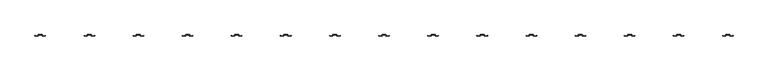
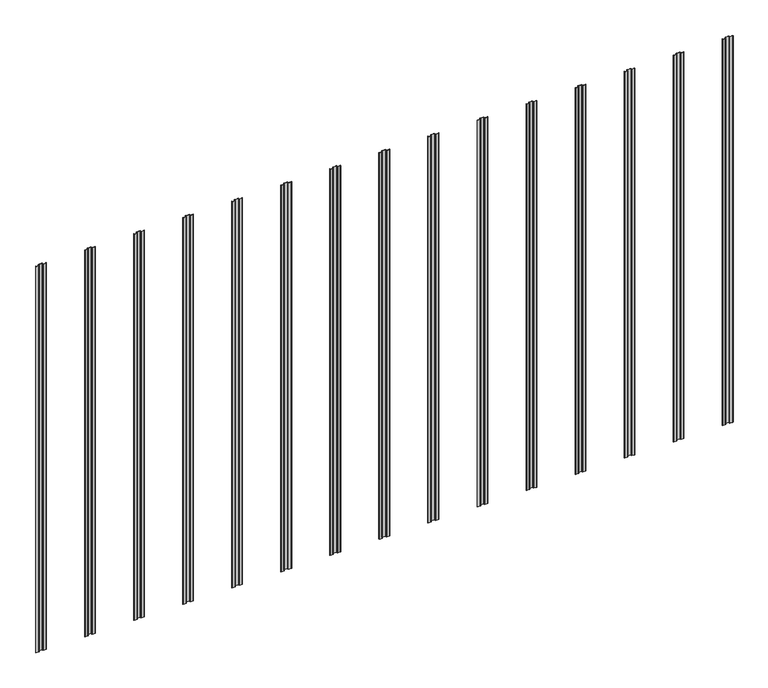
"""IFC4 building model written with IfcOpenShell, lengths in millimetres: fastener geometry, Knight-Wall-Systems_HCI-Girt : Knight-Wall-Systems_HCI-Girt."""

from ifc_helpers import new_model, si_unit, point, frame_2d, origin, origin_with_axes, place, context, project, spatial, polyline, circle_curve, trimmed, segment, composite_curve, outline, extrude, source, transform, mapped, element, save


def fastener_49d822d4(model_context):
    return source(origin(), model_context, "Body", "SweptSolid", [
        extrude(outline(composite_curve([segment(trimmed(circle_curve(frame_2d((8217.281, 3.048)), 1.524), [point((8217.281, 1.524))], [point((8218.805, 3.048))], True, "CARTESIAN"), True, "CONTINUOUS"), segment(polyline([(8218.805, 3.048), (8218.805, 16.002)]), True, "CONTINUOUS"), segment(trimmed(circle_curve(frame_2d((8221.853, 16.002)), 3.048), [point((8218.805, 16.002))], [point((8221.853, 19.05))], False, "CARTESIAN"), True, "CONTINUOUS"), segment(polyline([(8221.853, 19.05), (8266.557, 19.05)]), True, "CONTINUOUS"), segment(trimmed(circle_curve(frame_2d((8266.557, 16.002)), 3.048), [point((8266.557, 19.05))], [point((8269.605, 16.002))], False, "CARTESIAN"), True, "CONTINUOUS"), segment(polyline([(8269.605, 16.002), (8269.605, 3.048)]), True, "CONTINUOUS"), segment(trimmed(circle_curve(frame_2d((8271.129, 3.048)), 1.524), [point((8269.605, 3.048))], [point((8271.129, 1.524))], True, "CARTESIAN"), True, "CONTINUOUS"), segment(polyline([(8271.129, 1.524), (8307.07, 1.524)]), True, "CONTINUOUS"), segment(trimmed(circle_curve(frame_2d((8307.07, 2.54)), 1.016), [point((8307.07, 1.524))], [point((8308.086, 2.54))], True, "CARTESIAN"), True, "CONTINUOUS"), segment(polyline([(8308.086, 2.54), (8308.086, 5.588), (8309.61, 5.588), (8309.61, 2.54)]), True, "CONTINUOUS"), segment(trimmed(circle_curve(frame_2d((8307.07, 2.54)), 2.54), [point((8309.61, 2.54))], [point((8307.07, 0.0))], False, "CARTESIAN"), True, "CONTINUOUS"), segment(polyline([(8307.07, 0.0), (8271.129, 0.0)]), True, "CONTINUOUS"), segment(trimmed(circle_curve(frame_2d((8271.129, 3.048)), 3.048), [point((8271.129, 0.0))], [point((8268.081, 3.048))], False, "CARTESIAN"), True, "CONTINUOUS"), segment(polyline([(8268.081, 3.048), (8268.081, 16.002)]), True, "CONTINUOUS"), segment(trimmed(circle_curve(frame_2d((8266.557, 16.002)), 1.524), [point((8268.081, 16.002))], [point((8266.557, 17.526))], True, "CARTESIAN"), True, "CONTINUOUS"), segment(polyline([(8266.557, 17.526), (8221.853, 17.526)]), True, "CONTINUOUS"), segment(trimmed(circle_curve(frame_2d((8221.853, 16.002)), 1.524), [point((8221.853, 17.526))], [point((8220.329, 16.002))], True, "CARTESIAN"), True, "CONTINUOUS"), segment(polyline([(8220.329, 16.002), (8220.329, 3.048)]), True, "CONTINUOUS"), segment(trimmed(circle_curve(frame_2d((8217.281, 3.048)), 3.048), [point((8220.329, 3.048))], [point((8217.281, 0.0))], False, "CARTESIAN"), True, "CONTINUOUS"), segment(polyline([(8217.281, 0.0), (8181.34, 0.0)]), True, "CONTINUOUS"), segment(trimmed(circle_curve(frame_2d((8181.34, 2.54)), 2.54), [point((8181.34, 0.0))], [point((8178.8, 2.54))], False, "CARTESIAN"), True, "CONTINUOUS"), segment(polyline([(8178.8, 2.54), (8178.8, 5.588), (8180.324, 5.588), (8180.324, 2.54)]), True, "CONTINUOUS"), segment(trimmed(circle_curve(frame_2d((8181.34, 2.54)), 1.016), [point((8180.324, 2.54))], [point((8181.34, 1.524))], True, "CARTESIAN"), True, "CONTINUOUS"), segment(polyline([(8181.34, 1.524), (8217.281, 1.524)]), True, "CONTINUOUS")], self_intersect=False)), origin_with_axes(), (0.0, 0.0, 1.0), 5080.0),
        extrude(outline(composite_curve([segment(trimmed(circle_curve(frame_2d((7607.681, 3.048)), 1.524), [point((7607.681, 1.524))], [point((7609.205, 3.048))], True, "CARTESIAN"), True, "CONTINUOUS"), segment(polyline([(7609.205, 3.048), (7609.205, 16.002)]), True, "CONTINUOUS"), segment(trimmed(circle_curve(frame_2d((7612.253, 16.002)), 3.048), [point((7609.205, 16.002))], [point((7612.253, 19.05))], False, "CARTESIAN"), True, "CONTINUOUS"), segment(polyline([(7612.253, 19.05), (7656.957, 19.05)]), True, "CONTINUOUS"), segment(trimmed(circle_curve(frame_2d((7656.957, 16.002)), 3.048), [point((7656.957, 19.05))], [point((7660.005, 16.002))], False, "CARTESIAN"), True, "CONTINUOUS"), segment(polyline([(7660.005, 16.002), (7660.005, 3.048)]), True, "CONTINUOUS"), segment(trimmed(circle_curve(frame_2d((7661.529, 3.048)), 1.524), [point((7660.005, 3.048))], [point((7661.529, 1.524))], True, "CARTESIAN"), True, "CONTINUOUS"), segment(polyline([(7661.529, 1.524), (7697.47, 1.524)]), True, "CONTINUOUS"), segment(trimmed(circle_curve(frame_2d((7697.47, 2.54)), 1.016), [point((7697.47, 1.524))], [point((7698.486, 2.54))], True, "CARTESIAN"), True, "CONTINUOUS"), segment(polyline([(7698.486, 2.54), (7698.486, 5.588), (7700.01, 5.588), (7700.01, 2.54)]), True, "CONTINUOUS"), segment(trimmed(circle_curve(frame_2d((7697.47, 2.54)), 2.54), [point((7700.01, 2.54))], [point((7697.47, 0.0))], False, "CARTESIAN"), True, "CONTINUOUS"), segment(polyline([(7697.47, 0.0), (7661.529, 0.0)]), True, "CONTINUOUS"), segment(trimmed(circle_curve(frame_2d((7661.529, 3.048)), 3.048), [point((7661.529, 0.0))], [point((7658.481, 3.048))], False, "CARTESIAN"), True, "CONTINUOUS"), segment(polyline([(7658.481, 3.048), (7658.481, 16.002)]), True, "CONTINUOUS"), segment(trimmed(circle_curve(frame_2d((7656.957, 16.002)), 1.524), [point((7658.481, 16.002))], [point((7656.957, 17.526))], True, "CARTESIAN"), True, "CONTINUOUS"), segment(polyline([(7656.957, 17.526), (7612.253, 17.526)]), True, "CONTINUOUS"), segment(trimmed(circle_curve(frame_2d((7612.253, 16.002)), 1.524), [point((7612.253, 17.526))], [point((7610.729, 16.002))], True, "CARTESIAN"), True, "CONTINUOUS"), segment(polyline([(7610.729, 16.002), (7610.729, 3.048)]), True, "CONTINUOUS"), segment(trimmed(circle_curve(frame_2d((7607.681, 3.048)), 3.048), [point((7610.729, 3.048))], [point((7607.681, 0.0))], False, "CARTESIAN"), True, "CONTINUOUS"), segment(polyline([(7607.681, 0.0), (7571.74, 0.0)]), True, "CONTINUOUS"), segment(trimmed(circle_curve(frame_2d((7571.74, 2.54)), 2.54), [point((7571.74, 0.0))], [point((7569.2, 2.54))], False, "CARTESIAN"), True, "CONTINUOUS"), segment(polyline([(7569.2, 2.54), (7569.2, 5.588), (7570.724, 5.588), (7570.724, 2.54)]), True, "CONTINUOUS"), segment(trimmed(circle_curve(frame_2d((7571.74, 2.54)), 1.016), [point((7570.724, 2.54))], [point((7571.74, 1.524))], True, "CARTESIAN"), True, "CONTINUOUS"), segment(polyline([(7571.74, 1.524), (7607.681, 1.524)]), True, "CONTINUOUS")], self_intersect=False)), origin_with_axes(), (0.0, 0.0, 1.0), 5080.0),
        extrude(outline(composite_curve([segment(trimmed(circle_curve(frame_2d((6998.081, 3.048)), 1.524), [point((6998.081, 1.524))], [point((6999.605, 3.048))], True, "CARTESIAN"), True, "CONTINUOUS"), segment(polyline([(6999.605, 3.048), (6999.605, 16.002)]), True, "CONTINUOUS"), segment(trimmed(circle_curve(frame_2d((7002.653, 16.002)), 3.048), [point((6999.605, 16.002))], [point((7002.653, 19.05))], False, "CARTESIAN"), True, "CONTINUOUS"), segment(polyline([(7002.653, 19.05), (7047.357, 19.05)]), True, "CONTINUOUS"), segment(trimmed(circle_curve(frame_2d((7047.357, 16.002)), 3.048), [point((7047.357, 19.05))], [point((7050.405, 16.002))], False, "CARTESIAN"), True, "CONTINUOUS"), segment(polyline([(7050.405, 16.002), (7050.405, 3.048)]), True, "CONTINUOUS"), segment(trimmed(circle_curve(frame_2d((7051.929, 3.048)), 1.524), [point((7050.405, 3.048))], [point((7051.929, 1.524))], True, "CARTESIAN"), True, "CONTINUOUS"), segment(polyline([(7051.929, 1.524), (7087.87, 1.524)]), True, "CONTINUOUS"), segment(trimmed(circle_curve(frame_2d((7087.87, 2.54)), 1.016), [point((7087.87, 1.524))], [point((7088.886, 2.54))], True, "CARTESIAN"), True, "CONTINUOUS"), segment(polyline([(7088.886, 2.54), (7088.886, 5.588), (7090.41, 5.588), (7090.41, 2.54)]), True, "CONTINUOUS"), segment(trimmed(circle_curve(frame_2d((7087.87, 2.54)), 2.54), [point((7090.41, 2.54))], [point((7087.87, 0.0))], False, "CARTESIAN"), True, "CONTINUOUS"), segment(polyline([(7087.87, 0.0), (7051.929, 0.0)]), True, "CONTINUOUS"), segment(trimmed(circle_curve(frame_2d((7051.929, 3.048)), 3.048), [point((7051.929, 0.0))], [point((7048.881, 3.048))], False, "CARTESIAN"), True, "CONTINUOUS"), segment(polyline([(7048.881, 3.048), (7048.881, 16.002)]), True, "CONTINUOUS"), segment(trimmed(circle_curve(frame_2d((7047.357, 16.002)), 1.524), [point((7048.881, 16.002))], [point((7047.357, 17.526))], True, "CARTESIAN"), True, "CONTINUOUS"), segment(polyline([(7047.357, 17.526), (7002.653, 17.526)]), True, "CONTINUOUS"), segment(trimmed(circle_curve(frame_2d((7002.653, 16.002)), 1.524), [point((7002.653, 17.526))], [point((7001.129, 16.002))], True, "CARTESIAN"), True, "CONTINUOUS"), segment(polyline([(7001.129, 16.002), (7001.129, 3.048)]), True, "CONTINUOUS"), segment(trimmed(circle_curve(frame_2d((6998.081, 3.048)), 3.048), [point((7001.129, 3.048))], [point((6998.081, 0.0))], False, "CARTESIAN"), True, "CONTINUOUS"), segment(polyline([(6998.081, 0.0), (6962.14, 0.0)]), True, "CONTINUOUS"), segment(trimmed(circle_curve(frame_2d((6962.14, 2.54)), 2.54), [point((6962.14, 0.0))], [point((6959.6, 2.54))], False, "CARTESIAN"), True, "CONTINUOUS"), segment(polyline([(6959.6, 2.54), (6959.6, 5.588), (6961.124, 5.588), (6961.124, 2.54)]), True, "CONTINUOUS"), segment(trimmed(circle_curve(frame_2d((6962.14, 2.54)), 1.016), [point((6961.124, 2.54))], [point((6962.14, 1.524))], True, "CARTESIAN"), True, "CONTINUOUS"), segment(polyline([(6962.14, 1.524), (6998.081, 1.524)]), True, "CONTINUOUS")], self_intersect=False)), origin_with_axes(), (0.0, 0.0, 1.0), 5080.0),
        extrude(outline(composite_curve([segment(trimmed(circle_curve(frame_2d((6388.481, 3.048)), 1.524), [point((6388.481, 1.524))], [point((6390.005, 3.048))], True, "CARTESIAN"), True, "CONTINUOUS"), segment(polyline([(6390.005, 3.048), (6390.005, 16.002)]), True, "CONTINUOUS"), segment(trimmed(circle_curve(frame_2d((6393.053, 16.002)), 3.048), [point((6390.005, 16.002))], [point((6393.053, 19.05))], False, "CARTESIAN"), True, "CONTINUOUS"), segment(polyline([(6393.053, 19.05), (6437.757, 19.05)]), True, "CONTINUOUS"), segment(trimmed(circle_curve(frame_2d((6437.757, 16.002)), 3.048), [point((6437.757, 19.05))], [point((6440.805, 16.002))], False, "CARTESIAN"), True, "CONTINUOUS"), segment(polyline([(6440.805, 16.002), (6440.805, 3.048)]), True, "CONTINUOUS"), segment(trimmed(circle_curve(frame_2d((6442.329, 3.048)), 1.524), [point((6440.805, 3.048))], [point((6442.329, 1.524))], True, "CARTESIAN"), True, "CONTINUOUS"), segment(polyline([(6442.329, 1.524), (6478.27, 1.524)]), True, "CONTINUOUS"), segment(trimmed(circle_curve(frame_2d((6478.27, 2.54)), 1.016), [point((6478.27, 1.524))], [point((6479.286, 2.54))], True, "CARTESIAN"), True, "CONTINUOUS"), segment(polyline([(6479.286, 2.54), (6479.286, 5.588), (6480.81, 5.588), (6480.81, 2.54)]), True, "CONTINUOUS"), segment(trimmed(circle_curve(frame_2d((6478.27, 2.54)), 2.54), [point((6480.81, 2.54))], [point((6478.27, 0.0))], False, "CARTESIAN"), True, "CONTINUOUS"), segment(polyline([(6478.27, 0.0), (6442.329, 0.0)]), True, "CONTINUOUS"), segment(trimmed(circle_curve(frame_2d((6442.329, 3.048)), 3.048), [point((6442.329, 0.0))], [point((6439.281, 3.048))], False, "CARTESIAN"), True, "CONTINUOUS"), segment(polyline([(6439.281, 3.048), (6439.281, 16.002)]), True, "CONTINUOUS"), segment(trimmed(circle_curve(frame_2d((6437.757, 16.002)), 1.524), [point((6439.281, 16.002))], [point((6437.757, 17.526))], True, "CARTESIAN"), True, "CONTINUOUS"), segment(polyline([(6437.757, 17.526), (6393.053, 17.526)]), True, "CONTINUOUS"), segment(trimmed(circle_curve(frame_2d((6393.053, 16.002)), 1.524), [point((6393.053, 17.526))], [point((6391.529, 16.002))], True, "CARTESIAN"), True, "CONTINUOUS"), segment(polyline([(6391.529, 16.002), (6391.529, 3.048)]), True, "CONTINUOUS"), segment(trimmed(circle_curve(frame_2d((6388.481, 3.048)), 3.048), [point((6391.529, 3.048))], [point((6388.481, 0.0))], False, "CARTESIAN"), True, "CONTINUOUS"), segment(polyline([(6388.481, 0.0), (6352.54, 0.0)]), True, "CONTINUOUS"), segment(trimmed(circle_curve(frame_2d((6352.54, 2.54)), 2.54), [point((6352.54, 0.0))], [point((6350.0, 2.54))], False, "CARTESIAN"), True, "CONTINUOUS"), segment(polyline([(6350.0, 2.54), (6350.0, 5.588), (6351.524, 5.588), (6351.524, 2.54)]), True, "CONTINUOUS"), segment(trimmed(circle_curve(frame_2d((6352.54, 2.54)), 1.016), [point((6351.524, 2.54))], [point((6352.54, 1.524))], True, "CARTESIAN"), True, "CONTINUOUS"), segment(polyline([(6352.54, 1.524), (6388.481, 1.524)]), True, "CONTINUOUS")], self_intersect=False)), origin_with_axes(), (0.0, 0.0, 1.0), 5080.0),
        extrude(outline(composite_curve([segment(trimmed(circle_curve(frame_2d((5778.881, 3.048)), 1.524), [point((5778.881, 1.524))], [point((5780.405, 3.048))], True, "CARTESIAN"), True, "CONTINUOUS"), segment(polyline([(5780.405, 3.048), (5780.405, 16.002)]), True, "CONTINUOUS"), segment(trimmed(circle_curve(frame_2d((5783.453, 16.002)), 3.048), [point((5780.405, 16.002))], [point((5783.453, 19.05))], False, "CARTESIAN"), True, "CONTINUOUS"), segment(polyline([(5783.453, 19.05), (5828.157, 19.05)]), True, "CONTINUOUS"), segment(trimmed(circle_curve(frame_2d((5828.157, 16.002)), 3.048), [point((5828.157, 19.05))], [point((5831.205, 16.002))], False, "CARTESIAN"), True, "CONTINUOUS"), segment(polyline([(5831.205, 16.002), (5831.205, 3.048)]), True, "CONTINUOUS"), segment(trimmed(circle_curve(frame_2d((5832.729, 3.048)), 1.524), [point((5831.205, 3.048))], [point((5832.729, 1.524))], True, "CARTESIAN"), True, "CONTINUOUS"), segment(polyline([(5832.729, 1.524), (5868.67, 1.524)]), True, "CONTINUOUS"), segment(trimmed(circle_curve(frame_2d((5868.67, 2.54)), 1.016), [point((5868.67, 1.524))], [point((5869.686, 2.54))], True, "CARTESIAN"), True, "CONTINUOUS"), segment(polyline([(5869.686, 2.54), (5869.686, 5.588), (5871.21, 5.588), (5871.21, 2.54)]), True, "CONTINUOUS"), segment(trimmed(circle_curve(frame_2d((5868.67, 2.54)), 2.54), [point((5871.21, 2.54))], [point((5868.67, 0.0))], False, "CARTESIAN"), True, "CONTINUOUS"), segment(polyline([(5868.67, 0.0), (5832.729, 0.0)]), True, "CONTINUOUS"), segment(trimmed(circle_curve(frame_2d((5832.729, 3.048)), 3.048), [point((5832.729, 0.0))], [point((5829.681, 3.048))], False, "CARTESIAN"), True, "CONTINUOUS"), segment(polyline([(5829.681, 3.048), (5829.681, 16.002)]), True, "CONTINUOUS"), segment(trimmed(circle_curve(frame_2d((5828.157, 16.002)), 1.524), [point((5829.681, 16.002))], [point((5828.157, 17.526))], True, "CARTESIAN"), True, "CONTINUOUS"), segment(polyline([(5828.157, 17.526), (5783.453, 17.526)]), True, "CONTINUOUS"), segment(trimmed(circle_curve(frame_2d((5783.453, 16.002)), 1.524), [point((5783.453, 17.526))], [point((5781.929, 16.002))], True, "CARTESIAN"), True, "CONTINUOUS"), segment(polyline([(5781.929, 16.002), (5781.929, 3.048)]), True, "CONTINUOUS"), segment(trimmed(circle_curve(frame_2d((5778.881, 3.048)), 3.048), [point((5781.929, 3.048))], [point((5778.881, 0.0))], False, "CARTESIAN"), True, "CONTINUOUS"), segment(polyline([(5778.881, 0.0), (5742.94, 0.0)]), True, "CONTINUOUS"), segment(trimmed(circle_curve(frame_2d((5742.94, 2.54)), 2.54), [point((5742.94, 0.0))], [point((5740.4, 2.54))], False, "CARTESIAN"), True, "CONTINUOUS"), segment(polyline([(5740.4, 2.54), (5740.4, 5.588), (5741.924, 5.588), (5741.924, 2.54)]), True, "CONTINUOUS"), segment(trimmed(circle_curve(frame_2d((5742.94, 2.54)), 1.016), [point((5741.924, 2.54))], [point((5742.94, 1.524))], True, "CARTESIAN"), True, "CONTINUOUS"), segment(polyline([(5742.94, 1.524), (5778.881, 1.524)]), True, "CONTINUOUS")], self_intersect=False)), origin_with_axes(), (0.0, 0.0, 1.0), 5080.0),
        extrude(outline(composite_curve([segment(trimmed(circle_curve(frame_2d((5169.281, 3.048)), 1.524), [point((5169.281, 1.524))], [point((5170.805, 3.048))], True, "CARTESIAN"), True, "CONTINUOUS"), segment(polyline([(5170.805, 3.048), (5170.805, 16.002)]), True, "CONTINUOUS"), segment(trimmed(circle_curve(frame_2d((5173.853, 16.002)), 3.048), [point((5170.805, 16.002))], [point((5173.853, 19.05))], False, "CARTESIAN"), True, "CONTINUOUS"), segment(polyline([(5173.853, 19.05), (5218.557, 19.05)]), True, "CONTINUOUS"), segment(trimmed(circle_curve(frame_2d((5218.557, 16.002)), 3.048), [point((5218.557, 19.05))], [point((5221.605, 16.002))], False, "CARTESIAN"), True, "CONTINUOUS"), segment(polyline([(5221.605, 16.002), (5221.605, 3.048)]), True, "CONTINUOUS"), segment(trimmed(circle_curve(frame_2d((5223.129, 3.048)), 1.524), [point((5221.605, 3.048))], [point((5223.129, 1.524))], True, "CARTESIAN"), True, "CONTINUOUS"), segment(polyline([(5223.129, 1.524), (5259.07, 1.524)]), True, "CONTINUOUS"), segment(trimmed(circle_curve(frame_2d((5259.07, 2.54)), 1.016), [point((5259.07, 1.524))], [point((5260.086, 2.54))], True, "CARTESIAN"), True, "CONTINUOUS"), segment(polyline([(5260.086, 2.54), (5260.086, 5.588), (5261.61, 5.588), (5261.61, 2.54)]), True, "CONTINUOUS"), segment(trimmed(circle_curve(frame_2d((5259.07, 2.54)), 2.54), [point((5261.61, 2.54))], [point((5259.07, 0.0))], False, "CARTESIAN"), True, "CONTINUOUS"), segment(polyline([(5259.07, 0.0), (5223.129, 0.0)]), True, "CONTINUOUS"), segment(trimmed(circle_curve(frame_2d((5223.129, 3.048)), 3.048), [point((5223.129, 0.0))], [point((5220.081, 3.048))], False, "CARTESIAN"), True, "CONTINUOUS"), segment(polyline([(5220.081, 3.048), (5220.081, 16.002)]), True, "CONTINUOUS"), segment(trimmed(circle_curve(frame_2d((5218.557, 16.002)), 1.524), [point((5220.081, 16.002))], [point((5218.557, 17.526))], True, "CARTESIAN"), True, "CONTINUOUS"), segment(polyline([(5218.557, 17.526), (5173.853, 17.526)]), True, "CONTINUOUS"), segment(trimmed(circle_curve(frame_2d((5173.853, 16.002)), 1.524), [point((5173.853, 17.526))], [point((5172.329, 16.002))], True, "CARTESIAN"), True, "CONTINUOUS"), segment(polyline([(5172.329, 16.002), (5172.329, 3.048)]), True, "CONTINUOUS"), segment(trimmed(circle_curve(frame_2d((5169.281, 3.048)), 3.048), [point((5172.329, 3.048))], [point((5169.281, 0.0))], False, "CARTESIAN"), True, "CONTINUOUS"), segment(polyline([(5169.281, 0.0), (5133.34, 0.0)]), True, "CONTINUOUS"), segment(trimmed(circle_curve(frame_2d((5133.34, 2.54)), 2.54), [point((5133.34, 0.0))], [point((5130.8, 2.54))], False, "CARTESIAN"), True, "CONTINUOUS"), segment(polyline([(5130.8, 2.54), (5130.8, 5.588), (5132.324, 5.588), (5132.324, 2.54)]), True, "CONTINUOUS"), segment(trimmed(circle_curve(frame_2d((5133.34, 2.54)), 1.016), [point((5132.324, 2.54))], [point((5133.34, 1.524))], True, "CARTESIAN"), True, "CONTINUOUS"), segment(polyline([(5133.34, 1.524), (5169.281, 1.524)]), True, "CONTINUOUS")], self_intersect=False)), origin_with_axes(), (0.0, 0.0, 1.0), 5080.0),
        extrude(outline(composite_curve([segment(trimmed(circle_curve(frame_2d((4559.681, 3.048)), 1.524), [point((4559.681, 1.524))], [point((4561.205, 3.048))], True, "CARTESIAN"), True, "CONTINUOUS"), segment(polyline([(4561.205, 3.048), (4561.205, 16.002)]), True, "CONTINUOUS"), segment(trimmed(circle_curve(frame_2d((4564.253, 16.002)), 3.048), [point((4561.205, 16.002))], [point((4564.253, 19.05))], False, "CARTESIAN"), True, "CONTINUOUS"), segment(polyline([(4564.253, 19.05), (4608.957, 19.05)]), True, "CONTINUOUS"), segment(trimmed(circle_curve(frame_2d((4608.957, 16.002)), 3.048), [point((4608.957, 19.05))], [point((4612.005, 16.002))], False, "CARTESIAN"), True, "CONTINUOUS"), segment(polyline([(4612.005, 16.002), (4612.005, 3.048)]), True, "CONTINUOUS"), segment(trimmed(circle_curve(frame_2d((4613.529, 3.048)), 1.524), [point((4612.005, 3.048))], [point((4613.529, 1.524))], True, "CARTESIAN"), True, "CONTINUOUS"), segment(polyline([(4613.529, 1.524), (4649.47, 1.524)]), True, "CONTINUOUS"), segment(trimmed(circle_curve(frame_2d((4649.47, 2.54)), 1.016), [point((4649.47, 1.524))], [point((4650.486, 2.54))], True, "CARTESIAN"), True, "CONTINUOUS"), segment(polyline([(4650.486, 2.54), (4650.486, 5.588), (4652.01, 5.588), (4652.01, 2.54)]), True, "CONTINUOUS"), segment(trimmed(circle_curve(frame_2d((4649.47, 2.54)), 2.54), [point((4652.01, 2.54))], [point((4649.47, 0.0))], False, "CARTESIAN"), True, "CONTINUOUS"), segment(polyline([(4649.47, 0.0), (4613.529, 0.0)]), True, "CONTINUOUS"), segment(trimmed(circle_curve(frame_2d((4613.529, 3.048)), 3.048), [point((4613.529, 0.0))], [point((4610.481, 3.048))], False, "CARTESIAN"), True, "CONTINUOUS"), segment(polyline([(4610.481, 3.048), (4610.481, 16.002)]), True, "CONTINUOUS"), segment(trimmed(circle_curve(frame_2d((4608.957, 16.002)), 1.524), [point((4610.481, 16.002))], [point((4608.957, 17.526))], True, "CARTESIAN"), True, "CONTINUOUS"), segment(polyline([(4608.957, 17.526), (4564.253, 17.526)]), True, "CONTINUOUS"), segment(trimmed(circle_curve(frame_2d((4564.253, 16.002)), 1.524), [point((4564.253, 17.526))], [point((4562.729, 16.002))], True, "CARTESIAN"), True, "CONTINUOUS"), segment(polyline([(4562.729, 16.002), (4562.729, 3.048)]), True, "CONTINUOUS"), segment(trimmed(circle_curve(frame_2d((4559.681, 3.048)), 3.048), [point((4562.729, 3.048))], [point((4559.681, 0.0))], False, "CARTESIAN"), True, "CONTINUOUS"), segment(polyline([(4559.681, 0.0), (4523.74, 0.0)]), True, "CONTINUOUS"), segment(trimmed(circle_curve(frame_2d((4523.74, 2.54)), 2.54), [point((4523.74, 0.0))], [point((4521.2, 2.54))], False, "CARTESIAN"), True, "CONTINUOUS"), segment(polyline([(4521.2, 2.54), (4521.2, 5.588), (4522.724, 5.588), (4522.724, 2.54)]), True, "CONTINUOUS"), segment(trimmed(circle_curve(frame_2d((4523.74, 2.54)), 1.016), [point((4522.724, 2.54))], [point((4523.74, 1.524))], True, "CARTESIAN"), True, "CONTINUOUS"), segment(polyline([(4523.74, 1.524), (4559.681, 1.524)]), True, "CONTINUOUS")], self_intersect=False)), origin_with_axes(), (0.0, 0.0, 1.0), 5080.0),
        extrude(outline(composite_curve([segment(trimmed(circle_curve(frame_2d((3950.081, 3.048)), 1.524), [point((3950.081, 1.524))], [point((3951.605, 3.048))], True, "CARTESIAN"), True, "CONTINUOUS"), segment(polyline([(3951.605, 3.048), (3951.605, 16.002)]), True, "CONTINUOUS"), segment(trimmed(circle_curve(frame_2d((3954.653, 16.002)), 3.048), [point((3951.605, 16.002))], [point((3954.653, 19.05))], False, "CARTESIAN"), True, "CONTINUOUS"), segment(polyline([(3954.653, 19.05), (3999.357, 19.05)]), True, "CONTINUOUS"), segment(trimmed(circle_curve(frame_2d((3999.357, 16.002)), 3.048), [point((3999.357, 19.05))], [point((4002.405, 16.002))], False, "CARTESIAN"), True, "CONTINUOUS"), segment(polyline([(4002.405, 16.002), (4002.405, 3.048)]), True, "CONTINUOUS"), segment(trimmed(circle_curve(frame_2d((4003.929, 3.048)), 1.524), [point((4002.405, 3.048))], [point((4003.929, 1.524))], True, "CARTESIAN"), True, "CONTINUOUS"), segment(polyline([(4003.929, 1.524), (4039.87, 1.524)]), True, "CONTINUOUS"), segment(trimmed(circle_curve(frame_2d((4039.87, 2.54)), 1.016), [point((4039.87, 1.524))], [point((4040.886, 2.54))], True, "CARTESIAN"), True, "CONTINUOUS"), segment(polyline([(4040.886, 2.54), (4040.886, 5.588), (4042.41, 5.588), (4042.41, 2.54)]), True, "CONTINUOUS"), segment(trimmed(circle_curve(frame_2d((4039.87, 2.54)), 2.54), [point((4042.41, 2.54))], [point((4039.87, 0.0))], False, "CARTESIAN"), True, "CONTINUOUS"), segment(polyline([(4039.87, 0.0), (4003.929, 0.0)]), True, "CONTINUOUS"), segment(trimmed(circle_curve(frame_2d((4003.929, 3.048)), 3.048), [point((4003.929, 0.0))], [point((4000.881, 3.048))], False, "CARTESIAN"), True, "CONTINUOUS"), segment(polyline([(4000.881, 3.048), (4000.881, 16.002)]), True, "CONTINUOUS"), segment(trimmed(circle_curve(frame_2d((3999.357, 16.002)), 1.524), [point((4000.881, 16.002))], [point((3999.357, 17.526))], True, "CARTESIAN"), True, "CONTINUOUS"), segment(polyline([(3999.357, 17.526), (3954.653, 17.526)]), True, "CONTINUOUS"), segment(trimmed(circle_curve(frame_2d((3954.653, 16.002)), 1.524), [point((3954.653, 17.526))], [point((3953.129, 16.002))], True, "CARTESIAN"), True, "CONTINUOUS"), segment(polyline([(3953.129, 16.002), (3953.129, 3.048)]), True, "CONTINUOUS"), segment(trimmed(circle_curve(frame_2d((3950.081, 3.048)), 3.048), [point((3953.129, 3.048))], [point((3950.081, 0.0))], False, "CARTESIAN"), True, "CONTINUOUS"), segment(polyline([(3950.081, 0.0), (3914.14, 0.0)]), True, "CONTINUOUS"), segment(trimmed(circle_curve(frame_2d((3914.14, 2.54)), 2.54), [point((3914.14, 0.0))], [point((3911.6, 2.54))], False, "CARTESIAN"), True, "CONTINUOUS"), segment(polyline([(3911.6, 2.54), (3911.6, 5.588), (3913.124, 5.588), (3913.124, 2.54)]), True, "CONTINUOUS"), segment(trimmed(circle_curve(frame_2d((3914.14, 2.54)), 1.016), [point((3913.124, 2.54))], [point((3914.14, 1.524))], True, "CARTESIAN"), True, "CONTINUOUS"), segment(polyline([(3914.14, 1.524), (3950.081, 1.524)]), True, "CONTINUOUS")], self_intersect=False)), origin_with_axes(), (0.0, 0.0, 1.0), 5080.0),
        extrude(outline(composite_curve([segment(trimmed(circle_curve(frame_2d((3340.481, 3.048)), 1.524), [point((3340.481, 1.524))], [point((3342.005, 3.048))], True, "CARTESIAN"), True, "CONTINUOUS"), segment(polyline([(3342.005, 3.048), (3342.005, 16.002)]), True, "CONTINUOUS"), segment(trimmed(circle_curve(frame_2d((3345.053, 16.002)), 3.048), [point((3342.005, 16.002))], [point((3345.053, 19.05))], False, "CARTESIAN"), True, "CONTINUOUS"), segment(polyline([(3345.053, 19.05), (3389.757, 19.05)]), True, "CONTINUOUS"), segment(trimmed(circle_curve(frame_2d((3389.757, 16.002)), 3.048), [point((3389.757, 19.05))], [point((3392.805, 16.002))], False, "CARTESIAN"), True, "CONTINUOUS"), segment(polyline([(3392.805, 16.002), (3392.805, 3.048)]), True, "CONTINUOUS"), segment(trimmed(circle_curve(frame_2d((3394.329, 3.048)), 1.524), [point((3392.805, 3.048))], [point((3394.329, 1.524))], True, "CARTESIAN"), True, "CONTINUOUS"), segment(polyline([(3394.329, 1.524), (3430.27, 1.524)]), True, "CONTINUOUS"), segment(trimmed(circle_curve(frame_2d((3430.27, 2.54)), 1.016), [point((3430.27, 1.524))], [point((3431.286, 2.54))], True, "CARTESIAN"), True, "CONTINUOUS"), segment(polyline([(3431.286, 2.54), (3431.286, 5.588), (3432.81, 5.588), (3432.81, 2.54)]), True, "CONTINUOUS"), segment(trimmed(circle_curve(frame_2d((3430.27, 2.54)), 2.54), [point((3432.81, 2.54))], [point((3430.27, 0.0))], False, "CARTESIAN"), True, "CONTINUOUS"), segment(polyline([(3430.27, 0.0), (3394.329, 0.0)]), True, "CONTINUOUS"), segment(trimmed(circle_curve(frame_2d((3394.329, 3.048)), 3.048), [point((3394.329, 0.0))], [point((3391.281, 3.048))], False, "CARTESIAN"), True, "CONTINUOUS"), segment(polyline([(3391.281, 3.048), (3391.281, 16.002)]), True, "CONTINUOUS"), segment(trimmed(circle_curve(frame_2d((3389.757, 16.002)), 1.524), [point((3391.281, 16.002))], [point((3389.757, 17.526))], True, "CARTESIAN"), True, "CONTINUOUS"), segment(polyline([(3389.757, 17.526), (3345.053, 17.526)]), True, "CONTINUOUS"), segment(trimmed(circle_curve(frame_2d((3345.053, 16.002)), 1.524), [point((3345.053, 17.526))], [point((3343.529, 16.002))], True, "CARTESIAN"), True, "CONTINUOUS"), segment(polyline([(3343.529, 16.002), (3343.529, 3.048)]), True, "CONTINUOUS"), segment(trimmed(circle_curve(frame_2d((3340.481, 3.048)), 3.048), [point((3343.529, 3.048))], [point((3340.481, 0.0))], False, "CARTESIAN"), True, "CONTINUOUS"), segment(polyline([(3340.481, 0.0), (3304.54, 0.0)]), True, "CONTINUOUS"), segment(trimmed(circle_curve(frame_2d((3304.54, 2.54)), 2.54), [point((3304.54, 0.0))], [point((3302.0, 2.54))], False, "CARTESIAN"), True, "CONTINUOUS"), segment(polyline([(3302.0, 2.54), (3302.0, 5.588), (3303.524, 5.588), (3303.524, 2.54)]), True, "CONTINUOUS"), segment(trimmed(circle_curve(frame_2d((3304.54, 2.54)), 1.016), [point((3303.524, 2.54))], [point((3304.54, 1.524))], True, "CARTESIAN"), True, "CONTINUOUS"), segment(polyline([(3304.54, 1.524), (3340.481, 1.524)]), True, "CONTINUOUS")], self_intersect=False)), origin_with_axes(), (0.0, 0.0, 1.0), 5080.0),
        extrude(outline(composite_curve([segment(trimmed(circle_curve(frame_2d((2730.881, 3.048)), 1.524), [point((2730.881, 1.524))], [point((2732.405, 3.048))], True, "CARTESIAN"), True, "CONTINUOUS"), segment(polyline([(2732.405, 3.048), (2732.405, 16.002)]), True, "CONTINUOUS"), segment(trimmed(circle_curve(frame_2d((2735.453, 16.002)), 3.048), [point((2732.405, 16.002))], [point((2735.453, 19.05))], False, "CARTESIAN"), True, "CONTINUOUS"), segment(polyline([(2735.453, 19.05), (2780.157, 19.05)]), True, "CONTINUOUS"), segment(trimmed(circle_curve(frame_2d((2780.157, 16.002)), 3.048), [point((2780.157, 19.05))], [point((2783.205, 16.002))], False, "CARTESIAN"), True, "CONTINUOUS"), segment(polyline([(2783.205, 16.002), (2783.205, 3.048)]), True, "CONTINUOUS"), segment(trimmed(circle_curve(frame_2d((2784.729, 3.048)), 1.524), [point((2783.205, 3.048))], [point((2784.729, 1.524))], True, "CARTESIAN"), True, "CONTINUOUS"), segment(polyline([(2784.729, 1.524), (2820.67, 1.524)]), True, "CONTINUOUS"), segment(trimmed(circle_curve(frame_2d((2820.67, 2.54)), 1.016), [point((2820.67, 1.524))], [point((2821.686, 2.54))], True, "CARTESIAN"), True, "CONTINUOUS"), segment(polyline([(2821.686, 2.54), (2821.686, 5.588), (2823.21, 5.588), (2823.21, 2.54)]), True, "CONTINUOUS"), segment(trimmed(circle_curve(frame_2d((2820.67, 2.54)), 2.54), [point((2823.21, 2.54))], [point((2820.67, 0.0))], False, "CARTESIAN"), True, "CONTINUOUS"), segment(polyline([(2820.67, 0.0), (2784.729, 0.0)]), True, "CONTINUOUS"), segment(trimmed(circle_curve(frame_2d((2784.729, 3.048)), 3.048), [point((2784.729, 0.0))], [point((2781.681, 3.048))], False, "CARTESIAN"), True, "CONTINUOUS"), segment(polyline([(2781.681, 3.048), (2781.681, 16.002)]), True, "CONTINUOUS"), segment(trimmed(circle_curve(frame_2d((2780.157, 16.002)), 1.524), [point((2781.681, 16.002))], [point((2780.157, 17.526))], True, "CARTESIAN"), True, "CONTINUOUS"), segment(polyline([(2780.157, 17.526), (2735.453, 17.526)]), True, "CONTINUOUS"), segment(trimmed(circle_curve(frame_2d((2735.453, 16.002)), 1.524), [point((2735.453, 17.526))], [point((2733.929, 16.002))], True, "CARTESIAN"), True, "CONTINUOUS"), segment(polyline([(2733.929, 16.002), (2733.929, 3.048)]), True, "CONTINUOUS"), segment(trimmed(circle_curve(frame_2d((2730.881, 3.048)), 3.048), [point((2733.929, 3.048))], [point((2730.881, 0.0))], False, "CARTESIAN"), True, "CONTINUOUS"), segment(polyline([(2730.881, 0.0), (2694.94, 0.0)]), True, "CONTINUOUS"), segment(trimmed(circle_curve(frame_2d((2694.94, 2.54)), 2.54), [point((2694.94, 0.0))], [point((2692.4, 2.54))], False, "CARTESIAN"), True, "CONTINUOUS"), segment(polyline([(2692.4, 2.54), (2692.4, 5.588), (2693.924, 5.588), (2693.924, 2.54)]), True, "CONTINUOUS"), segment(trimmed(circle_curve(frame_2d((2694.94, 2.54)), 1.016), [point((2693.924, 2.54))], [point((2694.94, 1.524))], True, "CARTESIAN"), True, "CONTINUOUS"), segment(polyline([(2694.94, 1.524), (2730.881, 1.524)]), True, "CONTINUOUS")], self_intersect=False)), origin_with_axes(), (0.0, 0.0, 1.0), 5080.0),
        extrude(outline(composite_curve([segment(trimmed(circle_curve(frame_2d((2121.281, 3.048)), 1.524), [point((2121.281, 1.524))], [point((2122.805, 3.048))], True, "CARTESIAN"), True, "CONTINUOUS"), segment(polyline([(2122.805, 3.048), (2122.805, 16.002)]), True, "CONTINUOUS"), segment(trimmed(circle_curve(frame_2d((2125.853, 16.002)), 3.048), [point((2122.805, 16.002))], [point((2125.853, 19.05))], False, "CARTESIAN"), True, "CONTINUOUS"), segment(polyline([(2125.853, 19.05), (2170.557, 19.05)]), True, "CONTINUOUS"), segment(trimmed(circle_curve(frame_2d((2170.557, 16.002)), 3.048), [point((2170.557, 19.05))], [point((2173.605, 16.002))], False, "CARTESIAN"), True, "CONTINUOUS"), segment(polyline([(2173.605, 16.002), (2173.605, 3.048)]), True, "CONTINUOUS"), segment(trimmed(circle_curve(frame_2d((2175.129, 3.048)), 1.524), [point((2173.605, 3.048))], [point((2175.129, 1.524))], True, "CARTESIAN"), True, "CONTINUOUS"), segment(polyline([(2175.129, 1.524), (2211.07, 1.524)]), True, "CONTINUOUS"), segment(trimmed(circle_curve(frame_2d((2211.07, 2.54)), 1.016), [point((2211.07, 1.524))], [point((2212.086, 2.54))], True, "CARTESIAN"), True, "CONTINUOUS"), segment(polyline([(2212.086, 2.54), (2212.086, 5.588), (2213.61, 5.588), (2213.61, 2.54)]), True, "CONTINUOUS"), segment(trimmed(circle_curve(frame_2d((2211.07, 2.54)), 2.54), [point((2213.61, 2.54))], [point((2211.07, 0.0))], False, "CARTESIAN"), True, "CONTINUOUS"), segment(polyline([(2211.07, 0.0), (2175.129, 0.0)]), True, "CONTINUOUS"), segment(trimmed(circle_curve(frame_2d((2175.129, 3.048)), 3.048), [point((2175.129, 0.0))], [point((2172.081, 3.048))], False, "CARTESIAN"), True, "CONTINUOUS"), segment(polyline([(2172.081, 3.048), (2172.081, 16.002)]), True, "CONTINUOUS"), segment(trimmed(circle_curve(frame_2d((2170.557, 16.002)), 1.524), [point((2172.081, 16.002))], [point((2170.557, 17.526))], True, "CARTESIAN"), True, "CONTINUOUS"), segment(polyline([(2170.557, 17.526), (2125.853, 17.526)]), True, "CONTINUOUS"), segment(trimmed(circle_curve(frame_2d((2125.853, 16.002)), 1.524), [point((2125.853, 17.526))], [point((2124.329, 16.002))], True, "CARTESIAN"), True, "CONTINUOUS"), segment(polyline([(2124.329, 16.002), (2124.329, 3.048)]), True, "CONTINUOUS"), segment(trimmed(circle_curve(frame_2d((2121.281, 3.048)), 3.048), [point((2124.329, 3.048))], [point((2121.281, 0.0))], False, "CARTESIAN"), True, "CONTINUOUS"), segment(polyline([(2121.281, 0.0), (2085.34, 0.0)]), True, "CONTINUOUS"), segment(trimmed(circle_curve(frame_2d((2085.34, 2.54)), 2.54), [point((2085.34, 0.0))], [point((2082.8, 2.54))], False, "CARTESIAN"), True, "CONTINUOUS"), segment(polyline([(2082.8, 2.54), (2082.8, 5.588), (2084.324, 5.588), (2084.324, 2.54)]), True, "CONTINUOUS"), segment(trimmed(circle_curve(frame_2d((2085.34, 2.54)), 1.016), [point((2084.324, 2.54))], [point((2085.34, 1.524))], True, "CARTESIAN"), True, "CONTINUOUS"), segment(polyline([(2085.34, 1.524), (2121.281, 1.524)]), True, "CONTINUOUS")], self_intersect=False)), origin_with_axes(), (0.0, 0.0, 1.0), 5080.0),
        extrude(outline(composite_curve([segment(trimmed(circle_curve(frame_2d((1511.681, 3.048)), 1.524), [point((1511.681, 1.524))], [point((1513.205, 3.048))], True, "CARTESIAN"), True, "CONTINUOUS"), segment(polyline([(1513.205, 3.048), (1513.205, 16.002)]), True, "CONTINUOUS"), segment(trimmed(circle_curve(frame_2d((1516.253, 16.002)), 3.048), [point((1513.205, 16.002))], [point((1516.253, 19.05))], False, "CARTESIAN"), True, "CONTINUOUS"), segment(polyline([(1516.253, 19.05), (1560.957, 19.05)]), True, "CONTINUOUS"), segment(trimmed(circle_curve(frame_2d((1560.957, 16.002)), 3.048), [point((1560.957, 19.05))], [point((1564.005, 16.002))], False, "CARTESIAN"), True, "CONTINUOUS"), segment(polyline([(1564.005, 16.002), (1564.005, 3.048)]), True, "CONTINUOUS"), segment(trimmed(circle_curve(frame_2d((1565.529, 3.048)), 1.524), [point((1564.005, 3.048))], [point((1565.529, 1.524))], True, "CARTESIAN"), True, "CONTINUOUS"), segment(polyline([(1565.529, 1.524), (1601.47, 1.524)]), True, "CONTINUOUS"), segment(trimmed(circle_curve(frame_2d((1601.47, 2.54)), 1.016), [point((1601.47, 1.524))], [point((1602.486, 2.54))], True, "CARTESIAN"), True, "CONTINUOUS"), segment(polyline([(1602.486, 2.54), (1602.486, 5.588), (1604.01, 5.588), (1604.01, 2.54)]), True, "CONTINUOUS"), segment(trimmed(circle_curve(frame_2d((1601.47, 2.54)), 2.54), [point((1604.01, 2.54))], [point((1601.47, 0.0))], False, "CARTESIAN"), True, "CONTINUOUS"), segment(polyline([(1601.47, 0.0), (1565.529, 0.0)]), True, "CONTINUOUS"), segment(trimmed(circle_curve(frame_2d((1565.529, 3.048)), 3.048), [point((1565.529, 0.0))], [point((1562.481, 3.048))], False, "CARTESIAN"), True, "CONTINUOUS"), segment(polyline([(1562.481, 3.048), (1562.481, 16.002)]), True, "CONTINUOUS"), segment(trimmed(circle_curve(frame_2d((1560.957, 16.002)), 1.524), [point((1562.481, 16.002))], [point((1560.957, 17.526))], True, "CARTESIAN"), True, "CONTINUOUS"), segment(polyline([(1560.957, 17.526), (1516.253, 17.526)]), True, "CONTINUOUS"), segment(trimmed(circle_curve(frame_2d((1516.253, 16.002)), 1.524), [point((1516.253, 17.526))], [point((1514.729, 16.002))], True, "CARTESIAN"), True, "CONTINUOUS"), segment(polyline([(1514.729, 16.002), (1514.729, 3.048)]), True, "CONTINUOUS"), segment(trimmed(circle_curve(frame_2d((1511.681, 3.048)), 3.048), [point((1514.729, 3.048))], [point((1511.681, 0.0))], False, "CARTESIAN"), True, "CONTINUOUS"), segment(polyline([(1511.681, 0.0), (1475.74, 0.0)]), True, "CONTINUOUS"), segment(trimmed(circle_curve(frame_2d((1475.74, 2.54)), 2.54), [point((1475.74, 0.0))], [point((1473.2, 2.54))], False, "CARTESIAN"), True, "CONTINUOUS"), segment(polyline([(1473.2, 2.54), (1473.2, 5.588), (1474.724, 5.588), (1474.724, 2.54)]), True, "CONTINUOUS"), segment(trimmed(circle_curve(frame_2d((1475.74, 2.54)), 1.016), [point((1474.724, 2.54))], [point((1475.74, 1.524))], True, "CARTESIAN"), True, "CONTINUOUS"), segment(polyline([(1475.74, 1.524), (1511.681, 1.524)]), True, "CONTINUOUS")], self_intersect=False)), origin_with_axes(), (0.0, 0.0, 1.0), 5080.0),
        extrude(outline(composite_curve([segment(trimmed(circle_curve(frame_2d((902.081, 3.048)), 1.524), [point((902.081, 1.524))], [point((903.605, 3.048))], True, "CARTESIAN"), True, "CONTINUOUS"), segment(polyline([(903.605, 3.048), (903.605, 16.002)]), True, "CONTINUOUS"), segment(trimmed(circle_curve(frame_2d((906.653, 16.002)), 3.048), [point((903.605, 16.002))], [point((906.653, 19.05))], False, "CARTESIAN"), True, "CONTINUOUS"), segment(polyline([(906.653, 19.05), (951.357, 19.05)]), True, "CONTINUOUS"), segment(trimmed(circle_curve(frame_2d((951.357, 16.002)), 3.048), [point((951.357, 19.05))], [point((954.405, 16.002))], False, "CARTESIAN"), True, "CONTINUOUS"), segment(polyline([(954.405, 16.002), (954.405, 3.048)]), True, "CONTINUOUS"), segment(trimmed(circle_curve(frame_2d((955.929, 3.048)), 1.524), [point((954.405, 3.048))], [point((955.929, 1.524))], True, "CARTESIAN"), True, "CONTINUOUS"), segment(polyline([(955.929, 1.524), (991.87, 1.524)]), True, "CONTINUOUS"), segment(trimmed(circle_curve(frame_2d((991.87, 2.54)), 1.016), [point((991.87, 1.524))], [point((992.886, 2.54))], True, "CARTESIAN"), True, "CONTINUOUS"), segment(polyline([(992.886, 2.54), (992.886, 5.588), (994.41, 5.588), (994.41, 2.54)]), True, "CONTINUOUS"), segment(trimmed(circle_curve(frame_2d((991.87, 2.54)), 2.54), [point((994.41, 2.54))], [point((991.87, 0.0))], False, "CARTESIAN"), True, "CONTINUOUS"), segment(polyline([(991.87, 0.0), (955.929, 0.0)]), True, "CONTINUOUS"), segment(trimmed(circle_curve(frame_2d((955.929, 3.048)), 3.048), [point((955.929, 0.0))], [point((952.881, 3.048))], False, "CARTESIAN"), True, "CONTINUOUS"), segment(polyline([(952.881, 3.048), (952.881, 16.002)]), True, "CONTINUOUS"), segment(trimmed(circle_curve(frame_2d((951.357, 16.002)), 1.524), [point((952.881, 16.002))], [point((951.357, 17.526))], True, "CARTESIAN"), True, "CONTINUOUS"), segment(polyline([(951.357, 17.526), (906.653, 17.526)]), True, "CONTINUOUS"), segment(trimmed(circle_curve(frame_2d((906.653, 16.002)), 1.524), [point((906.653, 17.526))], [point((905.129, 16.002))], True, "CARTESIAN"), True, "CONTINUOUS"), segment(polyline([(905.129, 16.002), (905.129, 3.048)]), True, "CONTINUOUS"), segment(trimmed(circle_curve(frame_2d((902.081, 3.048)), 3.048), [point((905.129, 3.048))], [point((902.081, 0.0))], False, "CARTESIAN"), True, "CONTINUOUS"), segment(polyline([(902.081, 0.0), (866.14, 0.0)]), True, "CONTINUOUS"), segment(trimmed(circle_curve(frame_2d((866.14, 2.54)), 2.54), [point((866.14, 0.0))], [point((863.6, 2.54))], False, "CARTESIAN"), True, "CONTINUOUS"), segment(polyline([(863.6, 2.54), (863.6, 5.588), (865.124, 5.588), (865.124, 2.54)]), True, "CONTINUOUS"), segment(trimmed(circle_curve(frame_2d((866.14, 2.54)), 1.016), [point((865.124, 2.54))], [point((866.14, 1.524))], True, "CARTESIAN"), True, "CONTINUOUS"), segment(polyline([(866.14, 1.524), (902.081, 1.524)]), True, "CONTINUOUS")], self_intersect=False)), origin_with_axes(), (0.0, 0.0, 1.0), 5080.0),
        extrude(outline(composite_curve([segment(trimmed(circle_curve(frame_2d((8826.881, 3.048)), 1.524), [point((8826.881, 1.524))], [point((8828.405, 3.048))], True, "CARTESIAN"), True, "CONTINUOUS"), segment(polyline([(8828.405, 3.048), (8828.405, 16.002)]), True, "CONTINUOUS"), segment(trimmed(circle_curve(frame_2d((8831.453, 16.002)), 3.048), [point((8828.405, 16.002))], [point((8831.453, 19.05))], False, "CARTESIAN"), True, "CONTINUOUS"), segment(polyline([(8831.453, 19.05), (8876.157, 19.05)]), True, "CONTINUOUS"), segment(trimmed(circle_curve(frame_2d((8876.157, 16.002)), 3.048), [point((8876.157, 19.05))], [point((8879.205, 16.002))], False, "CARTESIAN"), True, "CONTINUOUS"), segment(polyline([(8879.205, 16.002), (8879.205, 3.048)]), True, "CONTINUOUS"), segment(trimmed(circle_curve(frame_2d((8880.729, 3.048)), 1.524), [point((8879.205, 3.048))], [point((8880.729, 1.524))], True, "CARTESIAN"), True, "CONTINUOUS"), segment(polyline([(8880.729, 1.524), (8916.67, 1.524)]), True, "CONTINUOUS"), segment(trimmed(circle_curve(frame_2d((8916.67, 2.54)), 1.016), [point((8916.67, 1.524))], [point((8917.686, 2.54))], True, "CARTESIAN"), True, "CONTINUOUS"), segment(polyline([(8917.686, 2.54), (8917.686, 5.588), (8919.21, 5.588), (8919.21, 2.54)]), True, "CONTINUOUS"), segment(trimmed(circle_curve(frame_2d((8916.67, 2.54)), 2.54), [point((8919.21, 2.54))], [point((8916.67, 0.0))], False, "CARTESIAN"), True, "CONTINUOUS"), segment(polyline([(8916.67, 0.0), (8880.729, 0.0)]), True, "CONTINUOUS"), segment(trimmed(circle_curve(frame_2d((8880.729, 3.048)), 3.048), [point((8880.729, 0.0))], [point((8877.681, 3.048))], False, "CARTESIAN"), True, "CONTINUOUS"), segment(polyline([(8877.681, 3.048), (8877.681, 16.002)]), True, "CONTINUOUS"), segment(trimmed(circle_curve(frame_2d((8876.157, 16.002)), 1.524), [point((8877.681, 16.002))], [point((8876.157, 17.526))], True, "CARTESIAN"), True, "CONTINUOUS"), segment(polyline([(8876.157, 17.526), (8831.453, 17.526)]), True, "CONTINUOUS"), segment(trimmed(circle_curve(frame_2d((8831.453, 16.002)), 1.524), [point((8831.453, 17.526))], [point((8829.929, 16.002))], True, "CARTESIAN"), True, "CONTINUOUS"), segment(polyline([(8829.929, 16.002), (8829.929, 3.048)]), True, "CONTINUOUS"), segment(trimmed(circle_curve(frame_2d((8826.881, 3.048)), 3.048), [point((8829.929, 3.048))], [point((8826.881, 0.0))], False, "CARTESIAN"), True, "CONTINUOUS"), segment(polyline([(8826.881, 0.0), (8790.94, 0.0)]), True, "CONTINUOUS"), segment(trimmed(circle_curve(frame_2d((8790.94, 2.54)), 2.54), [point((8790.94, 0.0))], [point((8788.4, 2.54))], False, "CARTESIAN"), True, "CONTINUOUS"), segment(polyline([(8788.4, 2.54), (8788.4, 5.588), (8789.924, 5.588), (8789.924, 2.54)]), True, "CONTINUOUS"), segment(trimmed(circle_curve(frame_2d((8790.94, 2.54)), 1.016), [point((8789.924, 2.54))], [point((8790.94, 1.524))], True, "CARTESIAN"), True, "CONTINUOUS"), segment(polyline([(8790.94, 1.524), (8826.881, 1.524)]), True, "CONTINUOUS")], self_intersect=False)), origin_with_axes(), (0.0, 0.0, 1.0), 5080.0),
        extrude(outline(composite_curve([segment(trimmed(circle_curve(frame_2d((292.481, 3.048)), 1.524), [point((292.481, 1.524))], [point((294.005, 3.048))], True, "CARTESIAN"), True, "CONTINUOUS"), segment(polyline([(294.005, 3.048), (294.005, 16.002)]), True, "CONTINUOUS"), segment(trimmed(circle_curve(frame_2d((297.053, 16.002)), 3.048), [point((294.005, 16.002))], [point((297.053, 19.05))], False, "CARTESIAN"), True, "CONTINUOUS"), segment(polyline([(297.053, 19.05), (341.757, 19.05)]), True, "CONTINUOUS"), segment(trimmed(circle_curve(frame_2d((341.757, 16.002)), 3.048), [point((341.757, 19.05))], [point((344.805, 16.002))], False, "CARTESIAN"), True, "CONTINUOUS"), segment(polyline([(344.805, 16.002), (344.805, 3.048)]), True, "CONTINUOUS"), segment(trimmed(circle_curve(frame_2d((346.329, 3.048)), 1.524), [point((344.805, 3.048))], [point((346.329, 1.524))], True, "CARTESIAN"), True, "CONTINUOUS"), segment(polyline([(346.329, 1.524), (382.27, 1.524)]), True, "CONTINUOUS"), segment(trimmed(circle_curve(frame_2d((382.27, 2.54)), 1.016), [point((382.27, 1.524))], [point((383.286, 2.54))], True, "CARTESIAN"), True, "CONTINUOUS"), segment(polyline([(383.286, 2.54), (383.286, 5.588), (384.81, 5.588), (384.81, 2.54)]), True, "CONTINUOUS"), segment(trimmed(circle_curve(frame_2d((382.27, 2.54)), 2.54), [point((384.81, 2.54))], [point((382.27, 0.0))], False, "CARTESIAN"), True, "CONTINUOUS"), segment(polyline([(382.27, 0.0), (346.329, 0.0)]), True, "CONTINUOUS"), segment(trimmed(circle_curve(frame_2d((346.329, 3.048)), 3.048), [point((346.329, 0.0))], [point((343.281, 3.048))], False, "CARTESIAN"), True, "CONTINUOUS"), segment(polyline([(343.281, 3.048), (343.281, 16.002)]), True, "CONTINUOUS"), segment(trimmed(circle_curve(frame_2d((341.757, 16.002)), 1.524), [point((343.281, 16.002))], [point((341.757, 17.526))], True, "CARTESIAN"), True, "CONTINUOUS"), segment(polyline([(341.757, 17.526), (297.053, 17.526)]), True, "CONTINUOUS"), segment(trimmed(circle_curve(frame_2d((297.053, 16.002)), 1.524), [point((297.053, 17.526))], [point((295.529, 16.002))], True, "CARTESIAN"), True, "CONTINUOUS"), segment(polyline([(295.529, 16.002), (295.529, 3.048)]), True, "CONTINUOUS"), segment(trimmed(circle_curve(frame_2d((292.481, 3.048)), 3.048), [point((295.529, 3.048))], [point((292.481, 0.0))], False, "CARTESIAN"), True, "CONTINUOUS"), segment(polyline([(292.481, 0.0), (256.54, 0.0)]), True, "CONTINUOUS"), segment(trimmed(circle_curve(frame_2d((256.54, 2.54)), 2.54), [point((256.54, 0.0))], [point((254.0, 2.54))], False, "CARTESIAN"), True, "CONTINUOUS"), segment(polyline([(254.0, 2.54), (254.0, 5.588), (255.524, 5.588), (255.524, 2.54)]), True, "CONTINUOUS"), segment(trimmed(circle_curve(frame_2d((256.54, 2.54)), 1.016), [point((255.524, 2.54))], [point((256.54, 1.524))], True, "CARTESIAN"), True, "CONTINUOUS"), segment(polyline([(256.54, 1.524), (292.481, 1.524)]), True, "CONTINUOUS")], self_intersect=False)), origin_with_axes(), (0.0, 0.0, 1.0), 5080.0),
    ])


if __name__ == "__main__":
    model = new_model("IFC4")
    model_context = context("Model", 3, world=origin())
    ifc_project = project(units=[si_unit("LENGTHUNIT", "METRE", prefix="MILLI")], contexts=[model_context])
    site = spatial("IfcSite", under=ifc_project)
    building = spatial("IfcBuilding", under=site)
    placement = place(None, origin())
    fastener_shape = fastener_49d822d4(model_context)
    element("IfcFastener", 1, ObjectType="Knight-Wall-Systems_HCI-Girt : Knight-Wall-Systems_HCI-Girt", at=placement, inside=building, context=model_context, shape_type="MappedRepresentation", body=[
        mapped(fastener_shape, transform((0.0, 0.0, 0.0), x_axis=(1.0, 0.0, 0.0), y_axis=(0.0, 1.0, 0.0), z_axis=(0.0, 0.0, 1.0))),
    ])
    save(model, "model.ifc")
